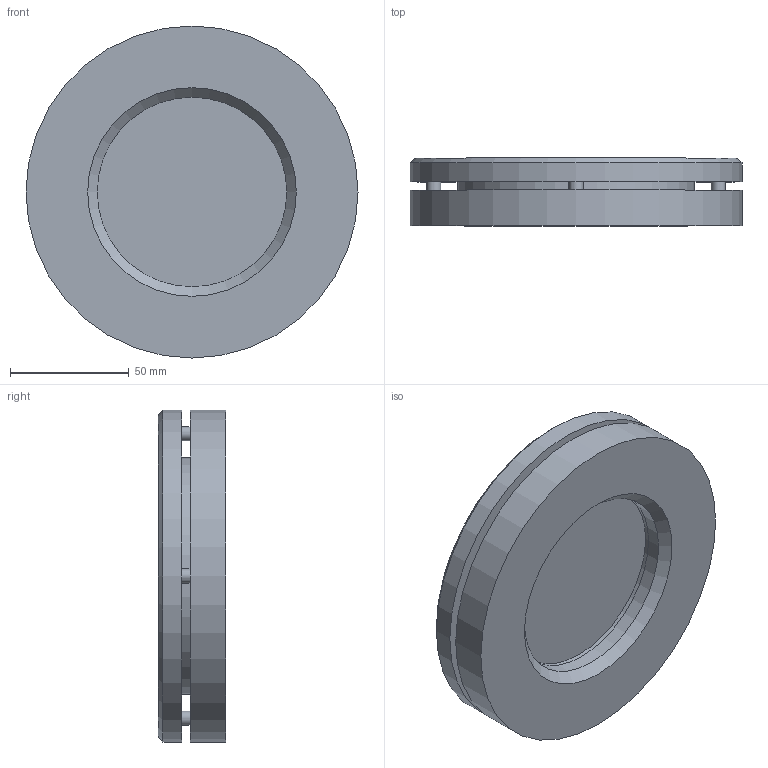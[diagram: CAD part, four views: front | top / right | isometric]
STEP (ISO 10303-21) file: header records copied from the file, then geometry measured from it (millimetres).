
FILE_DESCRIPTION(/* description */ ('Unknown'),/* implementation_level */ '2;1');
FILE_NAME(/* name */ 'Armatur 28120 drucklos DN 50',/* time_stamp */ '2016-01-18T15:25:08+01:00',/* author */ ('Unknown'),/* organization */ ('Unknown'),/* preprocessor_version */ 'ST-DEVELOPER v16.7',/* originating_system */ 'DEX',/* authorisation */ $);
FILE_SCHEMA (('CONFIG_CONTROL_DESIGN'));
Length unit declared in the file: millimetre
Products named in the file (6): 0206.231.38_01; 0863.175.38_01; 1346.201.38_01; 1345.201.38_01; 1775.091.38_01; Screw_DIN_7984_M6x16_v10.50
Assembly tree (9 placements, depth 2):
  0206.231.38_01
    0863.175.38_01  x2
    1346.201.38_01
    1345.201.38_01
    1775.091.38_01
    Screw_DIN_7984_M6x16_v10.50  x4
Bounding box: 140 x 28.5 x 140 mm (x, y, z)
Volume: 311634.6 mm3; surface area: 95353.5 mm2
Topology: 9 solids, 9 shells, 180 faces, 375 edges, 235 vertices
Faces by surface type: plane 88, cylinder 39, cone 37, torus 12, sphere 4
Full cylindrical faces by diameter (mm): 4.773 x4, 5 x4, 6 x8, 7 x4, 10 x4, 11 x4, 80 x4, 100 x1, 102 x2, 103 x2, 140 x2
Entity records: 2289 total; most frequent: CARTESIAN_POINT 399, DIRECTION 348, ORIENTED_EDGE 216, AXIS2_PLACEMENT_3D 159, EDGE_LOOP 140, FACE_BOUND 140, EDGE_CURVE 108, VERTEX_POINT 90
